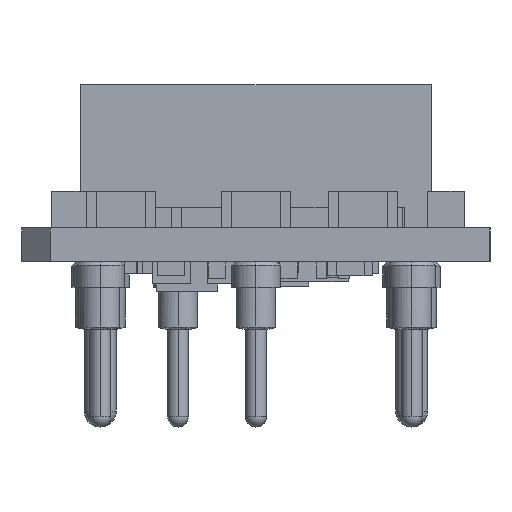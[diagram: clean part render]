
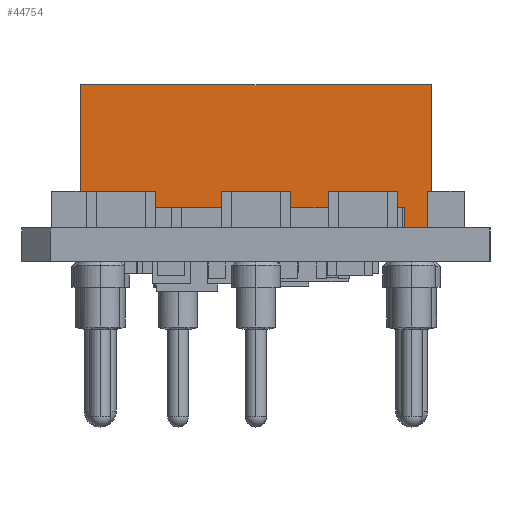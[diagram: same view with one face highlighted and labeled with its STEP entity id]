
A CAD part, left-side view. The second image highlights one B-rep face of the part: STEP entity #44754.
In plain terms, the highlighted planar face has unit normal (-1, 0, 0).
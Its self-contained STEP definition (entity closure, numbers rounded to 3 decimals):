
#23 = CARTESIAN_POINT ( 'NONE',  ( 19.515, 2.875, 0. ) ) ;
#2278 = DIRECTION ( 'NONE',  ( 0., 1., 0. ) ) ;
#2551 = EDGE_CURVE ( 'NONE', #3917, #24343, #49325, .T. ) ;
#3917 = VERTEX_POINT ( 'NONE', #36758 ) ;
#4542 = VERTEX_POINT ( 'NONE', #19002 ) ;
#5644 = VECTOR ( 'NONE', #2278, 1000. ) ;
#6822 = CARTESIAN_POINT ( 'NONE',  ( 19.515, 20.025, 0. ) ) ;
#8178 = ORIENTED_EDGE ( 'NONE', *, *, #26251, .F. ) ;
#9377 = LINE ( 'NONE', #24177, #27989 ) ;
#9455 = ORIENTED_EDGE ( 'NONE', *, *, #39974, .T. ) ;
#9652 = EDGE_CURVE ( 'NONE', #4542, #36395, #42088, .T. ) ;
#10377 = CARTESIAN_POINT ( 'NONE',  ( 19.515, 2.875, 7. ) ) ;
#13945 = VECTOR ( 'NONE', #53130, 1000. ) ;
#14582 = DIRECTION ( 'NONE',  ( -1., 0., 0. ) ) ;
#19002 = CARTESIAN_POINT ( 'NONE',  ( 19.515, 2.875, 0. ) ) ;
#23580 = DIRECTION ( 'NONE',  ( 0., 1., 0. ) ) ;
#23795 = CARTESIAN_POINT ( 'NONE',  ( 19.515, 20.025, 7. ) ) ;
#24037 = CARTESIAN_POINT ( 'NONE',  ( 19.515, 2.875, 7. ) ) ;
#24177 = CARTESIAN_POINT ( 'NONE',  ( 19.515, 2.875, 0. ) ) ;
#24343 = VERTEX_POINT ( 'NONE', #23795 ) ;
#25176 = LINE ( 'NONE', #10377, #5644 ) ;
#26251 = EDGE_CURVE ( 'NONE', #4542, #3917, #9377, .T. ) ;
#27989 = VECTOR ( 'NONE', #23580, 1000. ) ;
#29378 = DIRECTION ( 'NONE',  ( 0., 0., 1. ) ) ;
#36003 = AXIS2_PLACEMENT_3D ( 'NONE', #23, #14582, #29378 ) ;
#36395 = VERTEX_POINT ( 'NONE', #24037 ) ;
#36519 = CARTESIAN_POINT ( 'NONE',  ( 19.515, 2.875, 0. ) ) ;
#36758 = CARTESIAN_POINT ( 'NONE',  ( 19.515, 20.025, 0. ) ) ;
#39974 = EDGE_CURVE ( 'NONE', #36395, #24343, #25176, .T. ) ;
#40900 = EDGE_LOOP ( 'NONE', ( #52030, #9455, #58736, #8178 ) ) ;
#42088 = LINE ( 'NONE', #36519, #58307 ) ;
#44754 = ADVANCED_FACE ( 'NONE', ( #45971 ), #51244, .T. ) ;
#45971 = FACE_OUTER_BOUND ( 'NONE', #40900, .T. ) ;
#49325 = LINE ( 'NONE', #6822, #13945 ) ;
#51244 = PLANE ( 'NONE',  #36003 ) ;
#52030 = ORIENTED_EDGE ( 'NONE', *, *, #9652, .T. ) ;
#53130 = DIRECTION ( 'NONE',  ( 0., 0., 1. ) ) ;
#58307 = VECTOR ( 'NONE', #60556, 1000. ) ;
#58736 = ORIENTED_EDGE ( 'NONE', *, *, #2551, .F. ) ;
#60556 = DIRECTION ( 'NONE',  ( 0., 0., 1. ) ) ;
